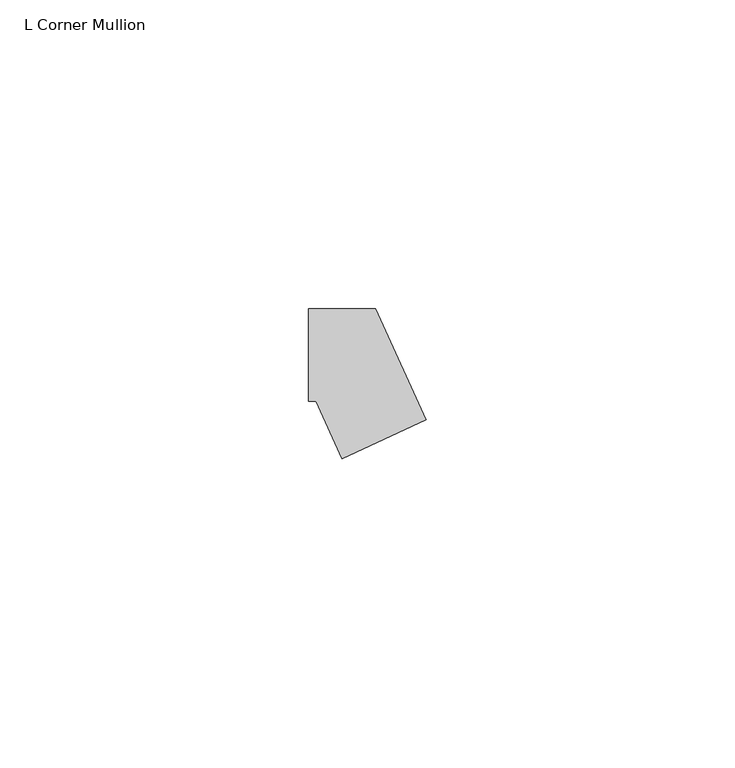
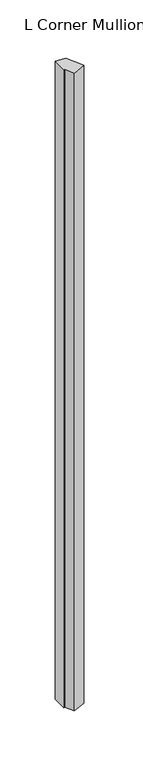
"""IFC4 building model written with IfcOpenShell, lengths in millimetres: member geometry, L Corner Mullion : ARQ_HERR_15X6mm."""

from ifc_helpers import new_model, si_unit, frame, origin, place, context, project, spatial, polyline, outline, extrude, source, transform, mapped, element, save


def l_corner_mullion_53c66c15(model_context):
    return source(origin(), model_context, "Body", "SweptSolid", [
        extrude(outline(polyline([(-0.5775282, -16.7605627), (-4.8156946, -7.5), (-6.0, -7.5), (-6.0, 7.5), (4.8156946, 7.5), (13.0619332, -10.5183601), (-0.5775282, -16.7605627)])), frame((0.0, 0.0, -702.7548374), z_axis=(0.0, 0.0, 1.0), x_axis=(1.0, 0.0, 0.0)), (0.0, 0.0, 1.0), 702.7548374),
    ])


if __name__ == "__main__":
    model = new_model("IFC4")
    model_context = context("Model", 3, world=origin())
    ifc_project = project(units=[si_unit("LENGTHUNIT", "METRE", prefix="MILLI")], contexts=[model_context])
    site = spatial("IfcSite", under=ifc_project)
    building = spatial("IfcBuilding", under=site)
    placement = place(None, origin())
    l_corner_mullion_shape = l_corner_mullion_53c66c15(model_context)
    element("IfcMember", 1, ObjectType="L Corner Mullion : ARQ_HERR_15X6mm", at=placement, inside=building, context=model_context, shape_type="MappedRepresentation", body=[
        mapped(l_corner_mullion_shape, transform((0.0, 0.0, 0.0), x_axis=(1.0, 0.0, 0.0), y_axis=(0.0, 1.0, 0.0), z_axis=(0.0, 0.0, 1.0))),
    ])
    save(model, "model.ifc")
